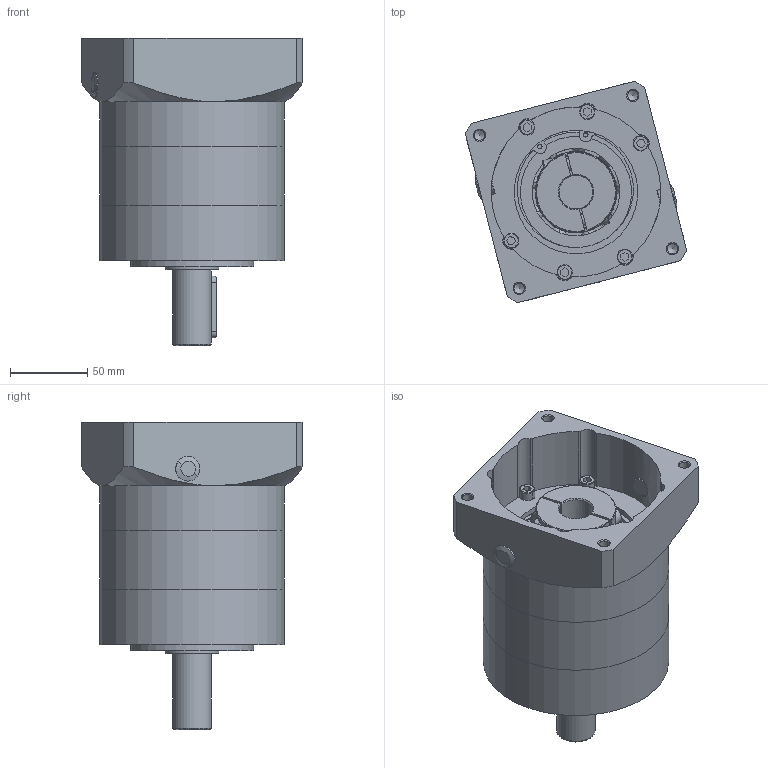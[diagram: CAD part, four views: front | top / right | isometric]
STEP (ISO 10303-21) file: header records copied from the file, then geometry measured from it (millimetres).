
FILE_DESCRIPTION(/* description */ (''),/* implementation_level */ '2;1');
FILE_NAME(/* name */ 'PE-120-L1(22-110-145-M8)(输出轴径25）.stp',/* time_stamp */ '2022-03-01T16:04:44+08:00',/* author */ (''),/* organization */ (''),/* preprocessor_version */ 'ST-DEVELOPER v16',/* originating_system */ 'SIEMENS PLM Software NX 10.0',/* authorisation */ '');
FILE_SCHEMA (('AP203_CONFIGURATION_CONTROLLED_3D_DESIGN_OF_MECHANICAL_PARTS_AND_ASSEMBLIES_MIM_LF { 1 0 10303 403 2 1 2}'));
Length unit declared in the file: millimetre
Products named in the file (1): 4C80C281224q
Bounding box: 143.43 x 143.43 x 199 mm (x, y, z)
Volume: 1056237.1 mm3; surface area: 294198.8 mm2
Topology: 28 solids, 28 shells, 1023 faces, 2772 edges, 1840 vertices
Faces by surface type: plane 335, cylinder 300, sphere 148, torus 114, cone 100, bspline 26
Full cylindrical faces by diameter (mm): 5 x16, 6.5 x14, 6.8 x8, 8.5 x5, 11 x8, 13 x2, 20 x1, 22 x1, 25 x2, 30 x1, 33 x1, 35 x2, 40 x1, 44 x1, 48.5 x1, 60 x1, 70 x1, 72 x2, 75 x1, 80 x4, 84 x1, 85 x1, 89 x1, 95 x4, 120 x3
Entity records: 34275 total; most frequent: CARTESIAN_POINT 9270, DIRECTION 5228, ORIENTED_EDGE 5064, EDGE_CURVE 2532, AXIS2_PLACEMENT_3D 2268, VERTEX_POINT 1770, EDGE_LOOP 1338, CIRCLE 1270
